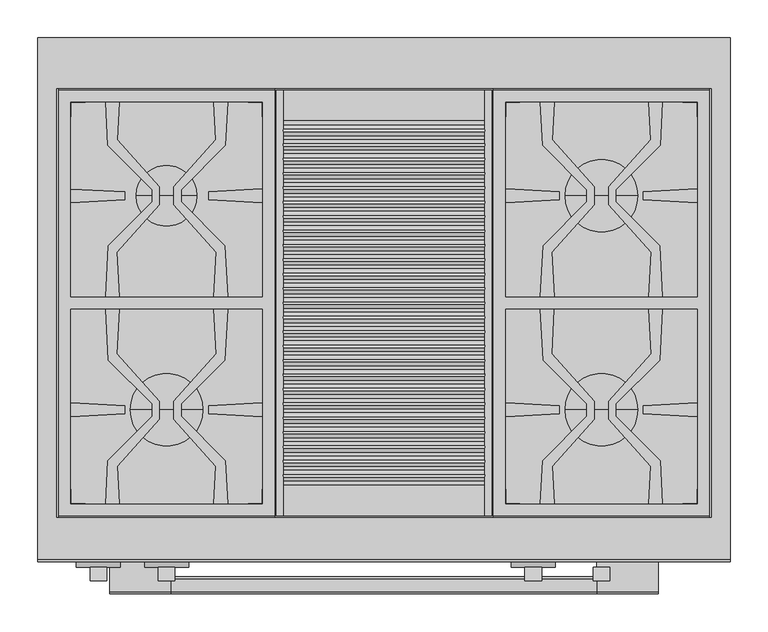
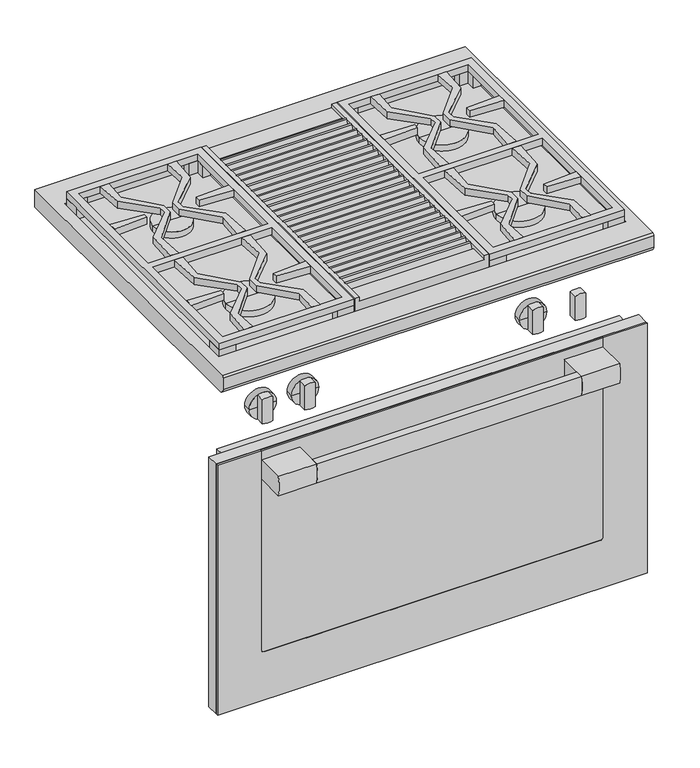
"""IFC4 building model written with IfcOpenShell, lengths in millimetres: proxy geometry, 11791600_USA_HR1935-3G_EDST-CLST : 25193581_USA_11791600_HR1935-3G_EDST-CLST."""

from ifc_helpers import new_model, si_unit, point, frame, frame_2d, origin, place, context, project, spatial, polyline, circle_curve, trimmed, segment, composite_curve, outline, extrude, faceted_brep, source, transform, mapped, element, save
from ifc_brep_helpers import plane_surface, cylinder_surface, revolved_surface, advanced_brep


def specialty_equipment_97d47d35(model_context):
    return source(origin(), model_context, "Body", "SolidModel", [
        extrude(outline(composite_curve([segment(polyline([(-714.0, 624.0), (-731.0, 624.0)]), True, "CONTINUOUS"), segment(trimmed(circle_curve(frame_2d((-655.4583333, 645.5)), 78.5416667), [point((-731.0, 624.0))], [point((-731.0, 667.0))], False, "CARTESIAN"), True, "CONTINUOUS"), segment(polyline([(-731.0, 667.0), (-714.0, 667.0)]), True, "CONTINUOUS"), segment(trimmed(circle_curve(frame_2d((-789.5416667, 645.5)), 78.5416667), [point((-714.0, 667.0))], [point((-714.0, 624.0))], False, "CARTESIAN"), True, "CONTINUOUS")], self_intersect=False)), frame((-281.0, 0.0, 0.0), z_axis=(1.0, 0.0, 0.0), x_axis=(0.0, 1.0, 0.0)), (0.0, 0.0, 1.0), 562.0),
        extrude(outline(composite_curve([segment(polyline([(-731.0, 667.0), (-668.7, 667.0), (-668.7, 624.0), (-731.0, 624.0)]), True, "CONTINUOUS"), segment(trimmed(circle_curve(frame_2d((-655.4583333, 645.5)), 78.5416667), [point((-731.0, 624.0))], [point((-731.0, 667.0))], False, "CARTESIAN"), True, "CONTINUOUS")], self_intersect=False)), frame((281.0, 0.0, 0.0), z_axis=(1.0, 0.0, 0.0), x_axis=(0.0, 1.0, 0.0)), (0.0, 0.0, 1.0), 81.0),
        extrude(outline(composite_curve([segment(polyline([(-668.7, 667.0), (-668.7, 624.0), (-731.0, 624.0)]), True, "CONTINUOUS"), segment(trimmed(circle_curve(frame_2d((-655.4583333, 645.5)), 78.5416667), [point((-731.0, 624.0))], [point((-731.0, 667.0))], False, "CARTESIAN"), True, "CONTINUOUS"), segment(polyline([(-731.0, 667.0), (-668.7, 667.0)]), True, "CONTINUOUS")], self_intersect=False)), frame((-362.0, 0.0, 0.0), z_axis=(1.0, 0.0, 0.0), x_axis=(0.0, 1.0, 0.0)), (0.0, 0.0, 1.0), 81.0),
        extrude(outline(polyline([(-456.0, -638.0), (456.0, -638.0), (456.0, -664.7), (-456.0, -664.7), (-456.0, -638.0)])), frame((0.0, 0.0, 127.0), z_axis=(0.0, 0.0, 1.0), x_axis=(1.0, 0.0, 0.0)), (0.0, 0.0, 1.0), 561.0),
        extrude(outline(polyline([(-455.0, -664.7), (455.0, -664.7), (455.0, -668.7), (-455.0, -668.7), (-455.0, -664.7)])), frame((0.0, 0.0, 128.0), z_axis=(0.0, 0.0, 1.0), x_axis=(1.0, 0.0, 0.0)), (0.0, 0.0, 1.0), 559.0),
        advanced_brep(
        [(363.0, -664.7, 688.0), (456.0, -664.7, 688.0), (456.0, -664.7, 127.0), (-456.0, -664.7, 127.0), (-456.0, -664.7, 688.0), (-363.0, -664.7, 688.0), (-363.0, -664.7, 687.0), (-455.0, -664.7, 687.0), (-455.0, -664.7, 128.0), (455.0, -664.7, 128.0), (455.0, -664.7, 687.0), (363.0, -664.7, 687.0), (-363.0, -670.0, 688.0), (-456.0, -670.0, 688.0), (-456.0, -670.0, 127.0), (456.0, -670.0, 127.0), (456.0, -670.0, 688.0), (363.0, -670.0, 688.0), (363.0, -670.0, 241.0), (357.0, -670.0, 235.0), (-357.0, -670.0, 235.0), (-363.0, -670.0, 241.0), (-363.0, -668.7, 241.0), (-363.0, -668.7, 687.0), (357.0, -668.7, 235.0), (-357.0, -668.7, 235.0), (363.0, -668.7, 687.0), (363.0, -668.7, 241.0), (455.0, -668.7, 687.0), (455.0, -668.7, 128.0), (-455.0, -668.7, 128.0), (-455.0, -668.7, 687.0)],
        [
            (0, 1),
            (1, 2),
            (2, 3),
            (3, 4),
            (4, 5),
            (5, 6),
            (6, 7),
            (7, 8),
            (8, 9),
            (9, 10),
            (10, 11),
            (11, 0),
            (12, 13),
            (13, 14),
            (14, 15),
            (15, 16),
            (16, 17),
            (17, 18),
            (18, 19, circle_curve(frame((357.0, -670.0, 241.0), z_axis=(0.0, 1.0, 0.0), x_axis=(-1.0, 0.0, 0.0)), 6.0)),
            (19, 20),
            (20, 21, circle_curve(frame((-357.0, -670.0, 241.0), z_axis=(0.0, 1.0, 0.0), x_axis=(-1.0, 0.0, 0.0)), 6.0)),
            (21, 12),
            (21, 22),
            (22, 23),
            (23, 6),
            (5, 12),
            (19, 24),
            (24, 25),
            (25, 20),
            (17, 0),
            (11, 26),
            (26, 27),
            (27, 18),
            (16, 1),
            (15, 2),
            (14, 3),
            (13, 4),
            (25, 22, circle_curve(frame((-357.0, -668.7, 241.0), z_axis=(0.0, 1.0, 0.0), x_axis=(-1.0, 0.0, 0.0)), 6.0)),
            (27, 24, circle_curve(frame((357.0, -668.7, 241.0), z_axis=(0.0, 1.0, 0.0), x_axis=(-1.0, 0.0, 0.0)), 6.0)),
            (28, 29),
            (29, 30),
            (30, 31),
            (31, 23),
            (26, 28),
            (28, 10),
            (9, 29),
            (8, 30),
            (7, 31),
        ],
        [
            plane_surface(frame((-363.0, -664.7, 241.0), z_axis=(0.0, 1.0, 0.0), x_axis=(0.0, 0.0, -1.0))),
            plane_surface(frame((-363.0, -670.0, 241.0), z_axis=(0.0, -1.0, 0.0), x_axis=(0.0, 0.0, 1.0))),
            plane_surface(frame((-363.0, -664.7, 688.0), z_axis=(1.0, 0.0, 0.0), x_axis=(0.0, -1.0, 0.0))),
            plane_surface(frame((-357.0, -664.7, 235.0), z_axis=(0.0, 0.0, 1.0), x_axis=(0.0, -1.0, 0.0))),
            plane_surface(frame((363.0, -664.7, 241.0), z_axis=(-1.0, 0.0, 0.0), x_axis=(0.0, -1.0, 0.0))),
            plane_surface(frame((363.0, -664.7, 688.0), z_axis=(0.0, 0.0, 1.0), x_axis=(0.0, -1.0, 0.0))),
            plane_surface(frame((456.0, -664.7, 688.0), z_axis=(1.0, 0.0, 0.0), x_axis=(0.0, -1.0, 0.0))),
            plane_surface(frame((456.0, -664.7, 127.0), z_axis=(0.0, 0.0, -1.0), x_axis=(0.0, -1.0, 0.0))),
            plane_surface(frame((-456.0, -664.7, 127.0), z_axis=(-1.0, 0.0, 0.0), x_axis=(0.0, -1.0, 0.0))),
            plane_surface(frame((-456.0, -664.7, 688.0), z_axis=(0.0, 0.0, 1.0), x_axis=(0.0, -1.0, 0.0))),
            revolved_surface(polyline([(-363.0, -670.0, 241.0), (-363.0, -668.7, 241.0)]), (-357.0, -670.0, 241.0), (0.0, -1.0, 0.0)),
            revolved_surface(polyline([(351.0, -670.0, 241.0), (351.0, -668.7, 241.0)]), (357.0, -670.0, 241.0), (0.0, -1.0, 0.0)),
            plane_surface(frame((455.0, -668.7, 687.0), z_axis=(0.0, 1.0, 0.0), x_axis=(0.0, 0.0, 1.0))),
            plane_surface(frame((455.0, -664.7, 687.0), z_axis=(-1.0, 0.0, 0.0), x_axis=(0.0, -1.0, 0.0))),
            plane_surface(frame((455.0, -664.7, 128.0), z_axis=(0.0, 0.0, 1.0), x_axis=(0.0, -1.0, 0.0))),
            plane_surface(frame((-455.0, -664.7, 128.0), z_axis=(1.0, 0.0, 0.0), x_axis=(0.0, -1.0, 0.0))),
            plane_surface(frame((-455.0, -664.7, 687.0), z_axis=(0.0, 0.0, -1.0), x_axis=(0.0, -1.0, 0.0))),
        ],
        [
            (0, [[1, 2, 3, 4, 5, 6, 7, 8, 9, 10, 11, 12]]),
            (1, [[13, 14, 15, 16, 17, 18, 19, 20, 21, 22]]),
            (2, [[-22, 23, 24, 25, -6, 26]]),
            (3, [[-20, 27, 28, 29]]),
            (4, [[-18, 30, -12, 31, 32, 33]]),
            (5, [[-1, -30, -17, 34]]),
            (6, [[-2, -34, -16, 35]]),
            (7, [[-3, -35, -15, 36]]),
            (8, [[-4, -36, -14, 37]]),
            (9, [[-5, -37, -13, -26]]),
            (10, [[-21, -29, 38, -23]]),
            (11, [[-19, -33, 39, -27]]),
            (12, [[40, 41, 42, 43, -24, -38, -28, -39, -32, 44]]),
            (13, [[-40, 45, -10, 46]]),
            (14, [[-41, -46, -9, 47]]),
            (15, [[-42, -47, -8, 48]]),
            (16, [[-45, -44, -31, -11]]),
            (16, [[-48, -7, -25, -43]]),
        ],
    ),
        extrude(outline(polyline([(-427.0, -617.0), (427.0, -617.0), (427.0, -638.0), (-427.0, -638.0), (-427.0, -617.0)])), frame((0.0, 0.0, 133.0), z_axis=(0.0, 0.0, 1.0), x_axis=(1.0, 0.0, 0.0)), (0.0, 0.0, 1.0), 550.0),
        extrude(outline(polyline([(206.4177304, -358.0273828), (224.4174107, -358.0273828), (221.3474419, -416.9894265), (277.4590566, -479.568392), (277.4590566, -503.4471434), (221.8930533, -565.5024535), (224.5051055, -615.0212482), (206.5054252, -615.0212482), (209.4706458, -558.0710081), (267.8494553, -499.6921986), (267.8494553, -483.3657133), (209.9764383, -425.4926963), (206.4177304, -358.0273828)])), frame((0.0, 0.0, 914.0), z_axis=(0.0, 0.0, 1.0), x_axis=(1.0, 0.0, 0.0)), (0.0, 0.0, 1.0), 15.0),
        extrude(outline(polyline([(352.5666917, -416.9448139), (349.4588735, -358.0273828), (367.4534566, -358.0273828), (363.9434746, -425.4403498), (306.0712231, -483.3126013), (306.0712231, -499.6295194), (364.5438392, -558.1021355), (367.5462487, -615.0212482), (349.541471, -615.0212482), (352.1220648, -565.4581775), (296.4590702, -503.3795395), (296.4590702, -479.6049953), (352.5666917, -416.9448139)])), frame((0.0, 0.0, 914.0), z_axis=(0.0, 0.0, 1.0), x_axis=(1.0, 0.0, 0.0)), (0.0, 0.0, 1.0), 15.0),
        extrude(outline(polyline([(-367.5822696, -358.0273828), (-349.5825893, -358.0273828), (-352.6525581, -416.9894265), (-296.5409434, -479.568392), (-296.5409434, -503.4471434), (-352.1069467, -565.5024535), (-349.4948945, -615.0212482), (-367.4945748, -615.0212482), (-364.5293542, -558.0710081), (-306.1505447, -499.6921986), (-306.1505447, -483.3657133), (-364.0235617, -425.4926963), (-367.5822696, -358.0273828)])), frame((0.0, 0.0, 914.0), z_axis=(0.0, 0.0, 1.0), x_axis=(1.0, 0.0, 0.0)), (0.0, 0.0, 1.0), 15.0),
        extrude(outline(polyline([(-224.5411265, -358.0273828), (-206.5465434, -358.0273828), (-210.0565254, -425.4403498), (-267.9287769, -483.3126013), (-267.9287769, -499.6295194), (-209.4561608, -558.1021355), (-206.4537513, -615.0212482), (-224.458529, -615.0212482), (-221.8779352, -565.4581775), (-277.5409298, -503.3795395), (-277.5409298, -479.6049953), (-221.4333083, -416.9448139), (-224.5411265, -358.0273828)])), frame((0.0, 0.0, 914.0), z_axis=(0.0, 0.0, 1.0), x_axis=(1.0, 0.0, 0.0)), (0.0, 0.0, 1.0), 15.0),
        extrude(outline(polyline([(206.4614138, -85.0), (224.4614138, -85.0), (221.8661974, -134.5196799), (277.5, -196.6082182), (277.5, -220.3917818), (221.3710782, -283.0328838), (224.4614138, -342.0), (206.4614138, -342.0), (209.9971843, -274.5334805), (267.8891082, -216.6415566), (267.8891082, -200.3584434), (209.4441217, -141.9134569), (206.4614138, -85.0)])), frame((0.0, 0.0, 914.0), z_axis=(0.0, 0.0, 1.0), x_axis=(1.0, 0.0, 0.0)), (0.0, 0.0, 1.0), 15.0),
        extrude(outline(polyline([(349.5, -85.0), (367.5, -85.0), (364.5172921, -141.9134569), (306.1108918, -200.3198573), (306.1108918, -216.6801428), (363.9642295, -274.5334805), (367.5, -342.0), (349.5, -342.0), (352.5903356, -283.0328839), (296.5, -220.4348449), (296.5, -196.5651551), (352.0952165, -134.5196799), (349.5, -85.0)])), frame((0.0, 0.0, 914.0), z_axis=(0.0, 0.0, 1.0), x_axis=(1.0, 0.0, 0.0)), (0.0, 0.0, 1.0), 15.0),
        extrude(outline(polyline([(-367.5385862, -85.0), (-349.5385862, -85.0), (-352.1338026, -134.5196799), (-296.5, -196.6082182), (-296.5, -220.3917818), (-352.6289218, -283.0328838), (-349.5385862, -342.0), (-367.5385862, -342.0), (-364.0028157, -274.5334805), (-306.1108918, -216.6415566), (-306.1108918, -200.3584434), (-364.5558783, -141.9134569), (-367.5385862, -85.0)])), frame((0.0, 0.0, 914.0), z_axis=(0.0, 0.0, 1.0), x_axis=(1.0, 0.0, 0.0)), (0.0, 0.0, 1.0), 15.0),
        extrude(outline(polyline([(-224.5, -85.0), (-206.5, -85.0), (-209.4827079, -141.9134569), (-267.8891082, -200.3198573), (-267.8891082, -216.6801428), (-210.0357705, -274.5334805), (-206.5, -342.0), (-224.5, -342.0), (-221.4096644, -283.0328839), (-277.5, -220.4348449), (-277.5, -196.5651551), (-221.9047835, -134.5196799), (-224.5, -85.0)])), frame((0.0, 0.0, 914.0), z_axis=(0.0, 0.0, 1.0), x_axis=(1.0, 0.0, 0.0)), (0.0, 0.0, 1.0), 15.0),
        extrude(outline(polyline([(429.5, -67.0), (429.5, -633.0), (144.5, -633.0), (144.5, -67.0), (429.5, -67.0)])), frame((0.0, 0.0, 870.0), z_axis=(0.0, 0.0, 1.0), x_axis=(1.0, 0.0, 0.0)), (0.0, 0.0, 1.0), 17.0),
        extrude(outline(polyline([(-144.5, -67.0), (-144.5, -633.0), (-429.5, -633.0), (-429.5, -67.0), (-144.5, -67.0)])), frame((0.0, 0.0, 870.0), z_axis=(0.0, 0.0, 1.0), x_axis=(1.0, 0.0, 0.0)), (0.0, 0.0, 1.0), 17.0),
        extrude(outline(polyline([(-342.5, -213.7921261), (-413.5, -217.4578849), (-413.5, -199.5421151), (-342.5, -203.2078739), (-342.5, -213.7921261)])), frame((0.0, 0.0, 914.0), z_axis=(0.0, 0.0, 1.0), x_axis=(1.0, 0.0, 0.0)), (0.0, 0.0, 1.0), 15.0),
        extrude(outline(polyline([(-160.5, -199.5029948), (-160.5, -217.4970052), (-231.5, -213.7790477), (-231.5, -203.2209523), (-160.5, -199.5029948)])), frame((0.0, 0.0, 914.0), z_axis=(0.0, 0.0, 1.0), x_axis=(1.0, 0.0, 0.0)), (0.0, 0.0, 1.0), 15.0),
        extrude(outline(polyline([(-342.5, -496.2921261), (-413.5, -499.9578849), (-413.5, -482.0421151), (-342.5, -485.7078739), (-342.5, -496.2921261)])), frame((0.0, 0.0, 914.0), z_axis=(0.0, 0.0, 1.0), x_axis=(1.0, 0.0, 0.0)), (0.0, 0.0, 1.0), 15.0),
        extrude(outline(polyline([(-160.5, -482.0029948), (-160.5, -499.9970052), (-231.5, -496.2790477), (-231.5, -485.7209523), (-160.5, -482.0029948)])), frame((0.0, 0.0, 914.0), z_axis=(0.0, 0.0, 1.0), x_axis=(1.0, 0.0, 0.0)), (0.0, 0.0, 1.0), 15.0),
        extrude(outline(polyline([(-144.5, -631.0), (-179.5, -631.0), (-179.5, -615.0), (-160.5, -615.0), (-160.5, -596.0), (-144.5, -596.0), (-144.5, -631.0)])), frame((0.0, 0.0, 887.0), z_axis=(0.0, 0.0, 1.0), x_axis=(1.0, 0.0, 0.0)), (0.0, 0.0, 1.0), 27.0),
        extrude(outline(polyline([(-429.5, -631.0), (-429.5, -596.0), (-413.5, -596.0), (-413.5, -615.0), (-394.5, -615.0), (-394.5, -631.0), (-429.5, -631.0)])), frame((0.0, 0.0, 887.0), z_axis=(0.0, 0.0, 1.0), x_axis=(1.0, 0.0, 0.0)), (0.0, 0.0, 1.0), 27.0),
        extrude(outline(polyline([(-144.5, -69.0), (-144.5, -104.0), (-160.5, -104.0), (-160.5, -85.0), (-179.5, -85.0), (-179.5, -69.0), (-144.5, -69.0)])), frame((0.0, 0.0, 887.0), z_axis=(0.0, 0.0, 1.0), x_axis=(1.0, 0.0, 0.0)), (0.0, 0.0, 1.0), 27.0),
        extrude(outline(polyline([(-429.5, -69.0), (-394.5, -69.0), (-394.5, -85.0), (-413.5, -85.0), (-413.5, -104.0), (-429.5, -104.0), (-429.5, -69.0)])), frame((0.0, 0.0, 887.0), z_axis=(0.0, 0.0, 1.0), x_axis=(1.0, 0.0, 0.0)), (0.0, 0.0, 1.0), 27.0),
        extrude(outline(polyline([(160.5, -499.9810574), (160.5, -482.0189426), (231.5, -485.7078739), (231.5, -496.2921261), (160.5, -499.9810574)])), frame((0.0, 0.0, 914.0), z_axis=(0.0, 0.0, 1.0), x_axis=(1.0, 0.0, 0.0)), (0.0, 0.0, 1.0), 15.0),
        extrude(outline(polyline([(413.5, -482.0262039), (413.5, -499.9737961), (342.5, -496.2790477), (342.5, -485.7209523), (413.5, -482.0262039)])), frame((0.0, 0.0, 914.0), z_axis=(0.0, 0.0, 1.0), x_axis=(1.0, 0.0, 0.0)), (0.0, 0.0, 1.0), 15.0),
        extrude(outline(polyline([(160.5, -217.4810574), (160.5, -199.5189426), (231.5, -203.2078739), (231.5, -213.7921261), (160.5, -217.4810574)])), frame((0.0, 0.0, 914.0), z_axis=(0.0, 0.0, 1.0), x_axis=(1.0, 0.0, 0.0)), (0.0, 0.0, 1.0), 15.0),
        extrude(outline(polyline([(413.5, -199.5262039), (413.5, -217.4737961), (342.5, -213.7790477), (342.5, -203.2209523), (413.5, -199.5262039)])), frame((0.0, 0.0, 914.0), z_axis=(0.0, 0.0, 1.0), x_axis=(1.0, 0.0, 0.0)), (0.0, 0.0, 1.0), 15.0),
        advanced_brep(
        [(239.0, -208.5, 887.0), (335.0, -208.5, 887.0), (335.0, -208.5, 901.0), (239.0, -208.5, 901.0), (287.0, -208.5, 887.0), (287.0, -208.5, 901.0)],
        [
            (0, 1, circle_curve(frame((287.0, -208.5, 887.0), z_axis=(0.0, 0.0, 1.0), x_axis=(1.0, 0.0, 0.0)), 48.0)),
            (1, 2),
            (2, 3, circle_curve(frame((287.0, -208.5, 901.0), z_axis=(0.0, 0.0, -1.0), x_axis=(1.0, 0.0, 0.0)), 48.0)),
            (3, 0),
            (1, 0, circle_curve(frame((287.0, -208.5, 887.0), z_axis=(0.0, 0.0, 1.0), x_axis=(1.0, 0.0, 0.0)), 48.0)),
            (3, 2, circle_curve(frame((287.0, -208.5, 901.0), z_axis=(0.0, 0.0, -1.0), x_axis=(1.0, 0.0, 0.0)), 48.0)),
            (4, 1),
            (0, 4),
            (2, 5),
            (5, 3),
        ],
        [
            cylinder_surface(frame((287.0, -208.5, 2424.4), z_axis=(0.0, 0.0, -1.0), x_axis=(1.0, 0.0, 0.0)), 48.0),
            plane_surface(frame((287.0, -208.5, 887.0), z_axis=(0.0, 0.0, -1.0), x_axis=(1.0, 0.0, 0.0))),
            plane_surface(frame((287.0, -208.5, 901.0), z_axis=(0.0, 0.0, 1.0), x_axis=(1.0, 0.0, 0.0))),
        ],
        [
            (0, [[1, 2, 3, 4]]),
            (0, [[5, -4, 6, -2]]),
            (1, [[7, -1, 8]]),
            (1, [[-8, -5, -7]]),
            (2, [[-3, 9, 10]]),
            (2, [[-6, -10, -9]]),
        ],
    ),
        extrude(outline(polyline([(-144.5, -69.0), (-144.5, -631.0), (-429.5, -631.0), (-429.5, -69.0), (-144.5, -69.0)]), holes=[polyline([(-160.5, -85.0), (-413.5, -85.0), (-413.5, -342.0), (-160.5, -342.0), (-160.5, -85.0)]), polyline([(-413.5, -358.0), (-413.5, -615.0), (-160.5, -615.0), (-160.5, -358.0), (-413.5, -358.0)])]), frame((0.0, 0.0, 914.0), z_axis=(0.0, 0.0, 1.0), x_axis=(1.0, 0.0, 0.0)), (0.0, 0.0, 1.0), 15.0),
        extrude(outline(polyline([(429.5, -69.0), (429.5, -631.0), (144.5, -631.0), (144.5, -69.0), (429.5, -69.0)]), holes=[polyline([(413.5, -85.0), (160.5, -85.0), (160.5, -342.0), (413.5, -342.0), (413.5, -85.0)]), polyline([(160.5, -358.0), (160.5, -615.0), (413.5, -615.0), (413.5, -358.0), (160.5, -358.0)])]), frame((0.0, 0.0, 914.0), z_axis=(0.0, 0.0, 1.0), x_axis=(1.0, 0.0, 0.0)), (0.0, 0.0, 1.0), 15.0),
        advanced_brep(
        [(239.0, -491.0, 887.0), (335.0, -491.0, 887.0), (335.0, -491.0, 901.0), (239.0, -491.0, 901.0), (287.0, -491.0, 887.0), (287.0, -491.0, 901.0)],
        [
            (0, 1, circle_curve(frame((287.0, -491.0, 887.0), z_axis=(0.0, 0.0, 1.0), x_axis=(1.0, 0.0, 0.0)), 48.0)),
            (1, 2),
            (2, 3, circle_curve(frame((287.0, -491.0, 901.0), z_axis=(0.0, 0.0, -1.0), x_axis=(1.0, 0.0, 0.0)), 48.0)),
            (3, 0),
            (1, 0, circle_curve(frame((287.0, -491.0, 887.0), z_axis=(0.0, 0.0, 1.0), x_axis=(1.0, 0.0, 0.0)), 48.0)),
            (3, 2, circle_curve(frame((287.0, -491.0, 901.0), z_axis=(0.0, 0.0, -1.0), x_axis=(1.0, 0.0, 0.0)), 48.0)),
            (4, 1),
            (0, 4),
            (2, 5),
            (5, 3),
        ],
        [
            cylinder_surface(frame((287.0, -491.0, 2424.4), z_axis=(0.0, 0.0, -1.0), x_axis=(1.0, 0.0, 0.0)), 48.0),
            plane_surface(frame((287.0, -491.0, 887.0), z_axis=(0.0, 0.0, -1.0), x_axis=(1.0, 0.0, 0.0))),
            plane_surface(frame((287.0, -491.0, 901.0), z_axis=(0.0, 0.0, 1.0), x_axis=(1.0, 0.0, 0.0))),
        ],
        [
            (0, [[1, 2, 3, 4]]),
            (0, [[5, -4, 6, -2]]),
            (1, [[7, -1, 8]]),
            (1, [[-8, -5, -7]]),
            (2, [[-3, 9, 10]]),
            (2, [[-6, -10, -9]]),
        ],
    ),
        extrude(outline(polyline([(429.5, -631.0), (394.5, -631.0), (394.5, -615.0), (413.5, -615.0), (413.5, -596.0), (429.5, -596.0), (429.5, -631.0)])), frame((0.0, 0.0, 887.0), z_axis=(0.0, 0.0, 1.0), x_axis=(1.0, 0.0, 0.0)), (0.0, 0.0, 1.0), 27.0),
        extrude(outline(polyline([(144.5, -631.0), (144.5, -596.0), (160.5125078, -596.0), (160.5125078, -615.0), (179.5, -615.0), (179.5, -631.0), (144.5, -631.0)])), frame((0.0, 0.0, 887.0), z_axis=(0.0, 0.0, 1.0), x_axis=(1.0, 0.0, 0.0)), (0.0, 0.0, 1.0), 27.0),
        extrude(outline(polyline([(429.5, -69.0), (429.5, -104.0), (413.4874922, -104.0), (413.4874922, -85.0), (394.5, -85.0), (394.5, -69.0), (429.5, -69.0)])), frame((0.0, 0.0, 887.0), z_axis=(0.0, 0.0, 1.0), x_axis=(1.0, 0.0, 0.0)), (0.0, 0.0, 1.0), 27.0),
        extrude(outline(polyline([(144.5, -69.0), (179.5, -69.0), (179.5, -85.0), (160.5125078, -85.0), (160.5125078, -104.0), (144.5, -104.0), (144.5, -69.0)])), frame((0.0, 0.0, 887.0), z_axis=(0.0, 0.0, 1.0), x_axis=(1.0, 0.0, 0.0)), (0.0, 0.0, 1.0), 27.0),
        advanced_brep(
        [(-287.0, -208.5, 887.0), (-247.0, -208.5, 887.0), (-327.0, -208.5, 887.0), (-327.0, -208.5, 901.0), (-247.0, -208.5, 901.0), (-287.0, -208.5, 901.0)],
        [
            (0, 1),
            (1, 2, circle_curve(frame((-287.0, -208.5, 887.0), z_axis=(0.0, 0.0, -1.0), x_axis=(1.0, 0.0, 0.0)), 40.0)),
            (2, 0),
            (2, 1, circle_curve(frame((-287.0, -208.5, 887.0), z_axis=(0.0, 0.0, -1.0), x_axis=(1.0, 0.0, 0.0)), 40.0)),
            (3, 4, circle_curve(frame((-287.0, -208.5, 901.0), z_axis=(0.0, 0.0, 1.0), x_axis=(1.0, 0.0, 0.0)), 40.0)),
            (4, 5),
            (5, 3),
            (4, 3, circle_curve(frame((-287.0, -208.5, 901.0), z_axis=(0.0, 0.0, 1.0), x_axis=(1.0, 0.0, 0.0)), 40.0)),
            (1, 4),
            (3, 2),
        ],
        [
            plane_surface(frame((-287.0, -208.5, 887.0), z_axis=(0.0, 0.0, -1.0), x_axis=(1.0, 0.0, 0.0))),
            plane_surface(frame((-287.0, -208.5, 901.0), z_axis=(0.0, 0.0, 1.0), x_axis=(1.0, 0.0, 0.0))),
            cylinder_surface(frame((-287.0, -208.5, 2424.4), z_axis=(0.0, 0.0, -1.0), x_axis=(1.0, 0.0, 0.0)), 40.0),
        ],
        [
            (0, [[1, 2, 3]]),
            (0, [[-3, 4, -1]]),
            (1, [[5, 6, 7]]),
            (1, [[8, -7, -6]]),
            (2, [[-2, 9, -5, 10]]),
            (2, [[-4, -10, -8, -9]]),
        ],
    ),
        advanced_brep(
        [(-335.0, -491.0, 887.0), (-239.0, -491.0, 887.0), (-239.0, -491.0, 901.0), (-335.0, -491.0, 901.0), (-287.0, -491.0, 887.0), (-287.0, -491.0, 901.0)],
        [
            (0, 1, circle_curve(frame((-287.0, -491.0, 887.0), z_axis=(0.0, 0.0, 1.0), x_axis=(1.0, 0.0, 0.0)), 48.0)),
            (1, 2),
            (2, 3, circle_curve(frame((-287.0, -491.0, 901.0), z_axis=(0.0, 0.0, -1.0), x_axis=(1.0, 0.0, 0.0)), 48.0)),
            (3, 0),
            (1, 0, circle_curve(frame((-287.0, -491.0, 887.0), z_axis=(0.0, 0.0, 1.0), x_axis=(1.0, 0.0, 0.0)), 48.0)),
            (3, 2, circle_curve(frame((-287.0, -491.0, 901.0), z_axis=(0.0, 0.0, -1.0), x_axis=(1.0, 0.0, 0.0)), 48.0)),
            (4, 1),
            (0, 4),
            (2, 5),
            (5, 3),
        ],
        [
            cylinder_surface(frame((-287.0, -491.0, 2424.4), z_axis=(0.0, 0.0, -1.0), x_axis=(1.0, 0.0, 0.0)), 48.0),
            plane_surface(frame((-287.0, -491.0, 887.0), z_axis=(0.0, 0.0, -1.0), x_axis=(1.0, 0.0, 0.0))),
            plane_surface(frame((-287.0, -491.0, 901.0), z_axis=(0.0, 0.0, 1.0), x_axis=(1.0, 0.0, 0.0))),
        ],
        [
            (0, [[1, 2, 3, 4]]),
            (0, [[5, -4, 6, -2]]),
            (1, [[7, -1, 8]]),
            (1, [[-8, -5, -7]]),
            (2, [[-3, 9, 10]]),
            (2, [[-6, -10, -9]]),
        ],
    ),
        advanced_brep(
        [(457.0, 0.0, 902.0), (457.0, -688.3499547, 902.0), (457.0, -692.0, 898.3499547), (457.0, -692.0, 872.0), (457.0, -682.0, 862.0), (457.0, 0.0, 862.0), (-457.0, 0.0, 902.0), (-457.0, 0.0, 862.0), (-457.0, -682.0, 862.0), (-457.0, -692.0, 872.0), (-457.0, -692.0, 898.3499547), (-457.0, -688.3499547, 902.0), (-432.0, -67.0, 902.0), (432.0, -67.0, 902.0), (432.0, -633.0, 902.0), (-432.0, -633.0, 902.0), (432.0, -67.0, 870.0), (-432.0, -67.0, 870.0), (-432.0, -633.0, 870.0), (432.0, -633.0, 870.0)],
        [
            (0, 1),
            (1, 2, circle_curve(frame((457.0, -688.0, 898.0), z_axis=(1.0, 0.0, 0.0), x_axis=(0.0, 0.0, 1.0)), 4.0152794)),
            (2, 3),
            (3, 4, circle_curve(frame((457.0, -682.0, 872.0), z_axis=(1.0, 0.0, 0.0), x_axis=(0.0, 0.0, 1.0)), 10.0)),
            (4, 5),
            (5, 0),
            (6, 7),
            (7, 8),
            (8, 9, circle_curve(frame((-457.0, -682.0, 872.0), z_axis=(-1.0, 0.0, 0.0), x_axis=(0.0, 0.0, 1.0)), 10.0)),
            (9, 10),
            (10, 11, circle_curve(frame((-457.0, -688.0, 898.0), z_axis=(-1.0, 0.0, 0.0), x_axis=(0.0, 0.0, 1.0)), 4.0152794)),
            (11, 6),
            (0, 6),
            (11, 1),
            (12, 13),
            (13, 14),
            (14, 15),
            (15, 12),
            (10, 2),
            (9, 3),
            (8, 4),
            (7, 5),
            (16, 17),
            (17, 18),
            (18, 19),
            (19, 16),
            (16, 13),
            (12, 17),
            (15, 18),
            (14, 19),
        ],
        [
            plane_surface(frame((457.0, -688.3499547, 902.0), z_axis=(1.0, 0.0, 0.0), x_axis=(0.0, -1.0, 0.0))),
            plane_surface(frame((-457.0, -688.3499547, 902.0), z_axis=(-1.0, 0.0, 0.0), x_axis=(0.0, 1.0, 0.0))),
            plane_surface(frame((457.0, 0.0, 902.0), z_axis=(0.0, 0.0, 1.0), x_axis=(-1.0, 0.0, 0.0))),
            cylinder_surface(frame((-457.0, -688.0, 898.0), z_axis=(1.0, 0.0, 0.0), x_axis=(0.0, 0.0, 1.0)), 4.0152794),
            plane_surface(frame((457.0, -692.0, 898.3499547), z_axis=(0.0, -1.0, 0.0), x_axis=(-1.0, 0.0, 0.0))),
            cylinder_surface(frame((-457.0, -682.0, 872.0), z_axis=(1.0, 0.0, 0.0), x_axis=(0.0, 0.0, 1.0)), 10.0),
            plane_surface(frame((457.0, -682.0, 862.0), z_axis=(0.0, 0.0, -1.0), x_axis=(-1.0, 0.0, 0.0))),
            plane_surface(frame((457.0, 0.0, 862.0), z_axis=(0.0, 1.0, 0.0), x_axis=(-1.0, 0.0, 0.0))),
            plane_surface(frame((-432.0, -67.0, 870.0), z_axis=(0.0, 0.0, 1.0), x_axis=(1.0, 0.0, 0.0))),
            plane_surface(frame((432.0, -67.0, 902.0), z_axis=(0.0, -1.0, 0.0), x_axis=(0.0, 0.0, -1.0))),
            plane_surface(frame((-432.0, -67.0, 902.0), z_axis=(1.0, 0.0, 0.0), x_axis=(0.0, 0.0, -1.0))),
            plane_surface(frame((-432.0, -633.0, 902.0), z_axis=(0.0, 1.0, 0.0), x_axis=(0.0, 0.0, -1.0))),
            plane_surface(frame((432.0, -633.0, 902.0), z_axis=(-1.0, 0.0, 0.0), x_axis=(0.0, 0.0, -1.0))),
        ],
        [
            (0, [[1, 2, 3, 4, 5, 6]]),
            (1, [[7, 8, 9, 10, 11, 12]]),
            (2, [[-1, 13, -12, 14], [15, 16, 17, 18]]),
            (3, [[-2, -14, -11, 19]]),
            (4, [[-3, -19, -10, 20]]),
            (5, [[-4, -20, -9, 21]]),
            (6, [[-5, -21, -8, 22]]),
            (7, [[-6, -22, -7, -13]]),
            (8, [[23, 24, 25, 26]]),
            (9, [[-23, 27, -15, 28]]),
            (10, [[-24, -28, -18, 29]]),
            (11, [[-25, -29, -17, 30]]),
            (12, [[-26, -30, -16, -27]]),
        ],
    ),
        extrude(outline(composite_curve([segment(polyline([(-584.850382, 916.0), (-579.8405353, 927.7825791)]), True, "CONTINUOUS"), segment(trimmed(circle_curve(frame_2d((-578.0, 927.0)), 2.0), [point((-579.8405353, 927.7825791))], [point((-576.1594647, 927.7825791))], False, "CARTESIAN"), True, "CONTINUOUS"), segment(polyline([(-576.1594647, 927.7825791), (-571.149618, 916.0), (-584.850382, 916.0)]), True, "CONTINUOUS")], self_intersect=False)), frame((-133.0, 0.0, 0.0), z_axis=(1.0, 0.0, 0.0), x_axis=(0.0, 1.0, 0.0)), (0.0, 0.0, 1.0), 266.0),
        extrude(outline(composite_curve([segment(polyline([(-565.850382, 916.0), (-560.8405353, 927.7825791)]), True, "CONTINUOUS"), segment(trimmed(circle_curve(frame_2d((-559.0, 927.0)), 2.0), [point((-560.8405353, 927.7825791))], [point((-557.1594647, 927.7825791))], False, "CARTESIAN"), True, "CONTINUOUS"), segment(polyline([(-557.1594647, 927.7825791), (-552.149618, 916.0), (-565.850382, 916.0)]), True, "CONTINUOUS")], self_intersect=False)), frame((-133.0, 0.0, 0.0), z_axis=(1.0, 0.0, 0.0), x_axis=(0.0, 1.0, 0.0)), (0.0, 0.0, 1.0), 266.0),
        extrude(outline(composite_curve([segment(polyline([(-546.850382, 916.0), (-541.8405353, 927.7825791)]), True, "CONTINUOUS"), segment(trimmed(circle_curve(frame_2d((-540.0, 927.0)), 2.0), [point((-541.8405353, 927.7825791))], [point((-538.1594647, 927.7825791))], False, "CARTESIAN"), True, "CONTINUOUS"), segment(polyline([(-538.1594647, 927.7825791), (-533.149618, 916.0), (-546.850382, 916.0)]), True, "CONTINUOUS")], self_intersect=False)), frame((-133.0, 0.0, 0.0), z_axis=(1.0, 0.0, 0.0), x_axis=(0.0, 1.0, 0.0)), (0.0, 0.0, 1.0), 266.0),
        extrude(outline(composite_curve([segment(polyline([(-527.850382, 916.0), (-522.8405353, 927.7825791)]), True, "CONTINUOUS"), segment(trimmed(circle_curve(frame_2d((-521.0, 927.0)), 2.0), [point((-522.8405353, 927.7825791))], [point((-519.1594647, 927.7825791))], False, "CARTESIAN"), True, "CONTINUOUS"), segment(polyline([(-519.1594647, 927.7825791), (-514.149618, 916.0), (-527.850382, 916.0)]), True, "CONTINUOUS")], self_intersect=False)), frame((-133.0, 0.0, 0.0), z_axis=(1.0, 0.0, 0.0), x_axis=(0.0, 1.0, 0.0)), (0.0, 0.0, 1.0), 266.0),
        extrude(outline(composite_curve([segment(polyline([(-508.850382, 916.0), (-503.8405353, 927.7825791)]), True, "CONTINUOUS"), segment(trimmed(circle_curve(frame_2d((-502.0, 927.0)), 2.0), [point((-503.8405353, 927.7825791))], [point((-500.1594647, 927.7825791))], False, "CARTESIAN"), True, "CONTINUOUS"), segment(polyline([(-500.1594647, 927.7825791), (-495.149618, 916.0), (-508.850382, 916.0)]), True, "CONTINUOUS")], self_intersect=False)), frame((-133.0, 0.0, 0.0), z_axis=(1.0, 0.0, 0.0), x_axis=(0.0, 1.0, 0.0)), (0.0, 0.0, 1.0), 266.0),
        extrude(outline(composite_curve([segment(polyline([(-489.850382, 916.0), (-484.8405353, 927.7825791)]), True, "CONTINUOUS"), segment(trimmed(circle_curve(frame_2d((-483.0, 927.0)), 2.0), [point((-484.8405353, 927.7825791))], [point((-481.1594647, 927.7825791))], False, "CARTESIAN"), True, "CONTINUOUS"), segment(polyline([(-481.1594647, 927.7825791), (-476.149618, 916.0), (-489.850382, 916.0)]), True, "CONTINUOUS")], self_intersect=False)), frame((-133.0, 0.0, 0.0), z_axis=(1.0, 0.0, 0.0), x_axis=(0.0, 1.0, 0.0)), (0.0, 0.0, 1.0), 266.0),
        extrude(outline(composite_curve([segment(polyline([(-470.850382, 916.0), (-465.8405353, 927.7825791)]), True, "CONTINUOUS"), segment(trimmed(circle_curve(frame_2d((-464.0, 927.0)), 2.0), [point((-465.8405353, 927.7825791))], [point((-462.1594647, 927.7825791))], False, "CARTESIAN"), True, "CONTINUOUS"), segment(polyline([(-462.1594647, 927.7825791), (-457.149618, 916.0), (-470.850382, 916.0)]), True, "CONTINUOUS")], self_intersect=False)), frame((-133.0, 0.0, 0.0), z_axis=(1.0, 0.0, 0.0), x_axis=(0.0, 1.0, 0.0)), (0.0, 0.0, 1.0), 266.0),
        extrude(outline(composite_curve([segment(polyline([(-451.850382, 916.0), (-446.8405353, 927.7825791)]), True, "CONTINUOUS"), segment(trimmed(circle_curve(frame_2d((-445.0, 927.0)), 2.0), [point((-446.8405353, 927.7825791))], [point((-443.1594647, 927.7825791))], False, "CARTESIAN"), True, "CONTINUOUS"), segment(polyline([(-443.1594647, 927.7825791), (-438.149618, 916.0), (-451.850382, 916.0)]), True, "CONTINUOUS")], self_intersect=False)), frame((-133.0, 0.0, 0.0), z_axis=(1.0, 0.0, 0.0), x_axis=(0.0, 1.0, 0.0)), (0.0, 0.0, 1.0), 266.0),
        extrude(outline(composite_curve([segment(polyline([(-432.850382, 916.0), (-427.8405353, 927.7825791)]), True, "CONTINUOUS"), segment(trimmed(circle_curve(frame_2d((-426.0, 927.0)), 2.0), [point((-427.8405353, 927.7825791))], [point((-424.1594647, 927.7825791))], False, "CARTESIAN"), True, "CONTINUOUS"), segment(polyline([(-424.1594647, 927.7825791), (-419.149618, 916.0), (-432.850382, 916.0)]), True, "CONTINUOUS")], self_intersect=False)), frame((-133.0, 0.0, 0.0), z_axis=(1.0, 0.0, 0.0), x_axis=(0.0, 1.0, 0.0)), (0.0, 0.0, 1.0), 266.0),
        extrude(outline(composite_curve([segment(polyline([(-413.850382, 916.0), (-408.8405353, 927.7825791)]), True, "CONTINUOUS"), segment(trimmed(circle_curve(frame_2d((-407.0, 927.0)), 2.0), [point((-408.8405353, 927.7825791))], [point((-405.1594647, 927.7825791))], False, "CARTESIAN"), True, "CONTINUOUS"), segment(polyline([(-405.1594647, 927.7825791), (-400.149618, 916.0), (-413.850382, 916.0)]), True, "CONTINUOUS")], self_intersect=False)), frame((-133.0, 0.0, 0.0), z_axis=(1.0, 0.0, 0.0), x_axis=(0.0, 1.0, 0.0)), (0.0, 0.0, 1.0), 266.0),
        extrude(outline(composite_curve([segment(polyline([(-394.850382, 916.0), (-389.8405353, 927.7825791)]), True, "CONTINUOUS"), segment(trimmed(circle_curve(frame_2d((-388.0, 927.0)), 2.0), [point((-389.8405353, 927.7825791))], [point((-386.1594647, 927.7825791))], False, "CARTESIAN"), True, "CONTINUOUS"), segment(polyline([(-386.1594647, 927.7825791), (-381.149618, 916.0), (-394.850382, 916.0)]), True, "CONTINUOUS")], self_intersect=False)), frame((-133.0, 0.0, 0.0), z_axis=(1.0, 0.0, 0.0), x_axis=(0.0, 1.0, 0.0)), (0.0, 0.0, 1.0), 266.0),
        extrude(outline(composite_curve([segment(polyline([(-375.850382, 916.0), (-370.8405353, 927.7825791)]), True, "CONTINUOUS"), segment(trimmed(circle_curve(frame_2d((-369.0, 927.0)), 2.0), [point((-370.8405353, 927.7825791))], [point((-367.1594647, 927.7825791))], False, "CARTESIAN"), True, "CONTINUOUS"), segment(polyline([(-367.1594647, 927.7825791), (-362.149618, 916.0), (-375.850382, 916.0)]), True, "CONTINUOUS")], self_intersect=False)), frame((-133.0, 0.0, 0.0), z_axis=(1.0, 0.0, 0.0), x_axis=(0.0, 1.0, 0.0)), (0.0, 0.0, 1.0), 266.0),
        extrude(outline(composite_curve([segment(polyline([(-356.850382, 916.0), (-351.8405353, 927.7825791)]), True, "CONTINUOUS"), segment(trimmed(circle_curve(frame_2d((-350.0, 927.0)), 2.0), [point((-351.8405353, 927.7825791))], [point((-348.1594647, 927.7825791))], False, "CARTESIAN"), True, "CONTINUOUS"), segment(polyline([(-348.1594647, 927.7825791), (-343.149618, 916.0), (-356.850382, 916.0)]), True, "CONTINUOUS")], self_intersect=False)), frame((-133.0, 0.0, 0.0), z_axis=(1.0, 0.0, 0.0), x_axis=(0.0, 1.0, 0.0)), (0.0, 0.0, 1.0), 266.0),
        extrude(outline(composite_curve([segment(polyline([(-337.850382, 916.0), (-332.8405353, 927.7825791)]), True, "CONTINUOUS"), segment(trimmed(circle_curve(frame_2d((-331.0, 927.0)), 2.0), [point((-332.8405353, 927.7825791))], [point((-329.1594647, 927.7825791))], False, "CARTESIAN"), True, "CONTINUOUS"), segment(polyline([(-329.1594647, 927.7825791), (-324.149618, 916.0), (-337.850382, 916.0)]), True, "CONTINUOUS")], self_intersect=False)), frame((-133.0, 0.0, 0.0), z_axis=(1.0, 0.0, 0.0), x_axis=(0.0, 1.0, 0.0)), (0.0, 0.0, 1.0), 266.0),
        extrude(outline(composite_curve([segment(polyline([(-318.850382, 916.0), (-313.8405353, 927.7825791)]), True, "CONTINUOUS"), segment(trimmed(circle_curve(frame_2d((-312.0, 927.0)), 2.0), [point((-313.8405353, 927.7825791))], [point((-310.1594647, 927.7825791))], False, "CARTESIAN"), True, "CONTINUOUS"), segment(polyline([(-310.1594647, 927.7825791), (-305.149618, 916.0), (-318.850382, 916.0)]), True, "CONTINUOUS")], self_intersect=False)), frame((-133.0, 0.0, 0.0), z_axis=(1.0, 0.0, 0.0), x_axis=(0.0, 1.0, 0.0)), (0.0, 0.0, 1.0), 266.0),
        extrude(outline(composite_curve([segment(polyline([(-299.850382, 916.0), (-294.8405353, 927.7825791)]), True, "CONTINUOUS"), segment(trimmed(circle_curve(frame_2d((-293.0, 927.0)), 2.0), [point((-294.8405353, 927.7825791))], [point((-291.1594647, 927.7825791))], False, "CARTESIAN"), True, "CONTINUOUS"), segment(polyline([(-291.1594647, 927.7825791), (-286.149618, 916.0), (-299.850382, 916.0)]), True, "CONTINUOUS")], self_intersect=False)), frame((-133.0, 0.0, 0.0), z_axis=(1.0, 0.0, 0.0), x_axis=(0.0, 1.0, 0.0)), (0.0, 0.0, 1.0), 266.0),
        extrude(outline(composite_curve([segment(polyline([(-280.850382, 916.0), (-275.8405353, 927.7825791)]), True, "CONTINUOUS"), segment(trimmed(circle_curve(frame_2d((-274.0, 927.0)), 2.0), [point((-275.8405353, 927.7825791))], [point((-272.1594647, 927.7825791))], False, "CARTESIAN"), True, "CONTINUOUS"), segment(polyline([(-272.1594647, 927.7825791), (-267.149618, 916.0), (-280.850382, 916.0)]), True, "CONTINUOUS")], self_intersect=False)), frame((-133.0, 0.0, 0.0), z_axis=(1.0, 0.0, 0.0), x_axis=(0.0, 1.0, 0.0)), (0.0, 0.0, 1.0), 266.0),
        extrude(outline(composite_curve([segment(polyline([(-261.850382, 916.0), (-256.8405353, 927.7825791)]), True, "CONTINUOUS"), segment(trimmed(circle_curve(frame_2d((-255.0, 927.0)), 2.0), [point((-256.8405353, 927.7825791))], [point((-253.1594647, 927.7825791))], False, "CARTESIAN"), True, "CONTINUOUS"), segment(polyline([(-253.1594647, 927.7825791), (-248.149618, 916.0), (-261.850382, 916.0)]), True, "CONTINUOUS")], self_intersect=False)), frame((-133.0, 0.0, 0.0), z_axis=(1.0, 0.0, 0.0), x_axis=(0.0, 1.0, 0.0)), (0.0, 0.0, 1.0), 266.0),
        extrude(outline(composite_curve([segment(polyline([(-242.850382, 916.0), (-237.8405353, 927.7825791)]), True, "CONTINUOUS"), segment(trimmed(circle_curve(frame_2d((-236.0, 927.0)), 2.0), [point((-237.8405353, 927.7825791))], [point((-234.1594647, 927.7825791))], False, "CARTESIAN"), True, "CONTINUOUS"), segment(polyline([(-234.1594647, 927.7825791), (-229.149618, 916.0), (-242.850382, 916.0)]), True, "CONTINUOUS")], self_intersect=False)), frame((-133.0, 0.0, 0.0), z_axis=(1.0, 0.0, 0.0), x_axis=(0.0, 1.0, 0.0)), (0.0, 0.0, 1.0), 266.0),
        extrude(outline(composite_curve([segment(polyline([(-223.850382, 916.0), (-218.8405353, 927.7825791)]), True, "CONTINUOUS"), segment(trimmed(circle_curve(frame_2d((-217.0, 927.0)), 2.0), [point((-218.8405353, 927.7825791))], [point((-215.1594647, 927.7825791))], False, "CARTESIAN"), True, "CONTINUOUS"), segment(polyline([(-215.1594647, 927.7825791), (-210.149618, 916.0), (-223.850382, 916.0)]), True, "CONTINUOUS")], self_intersect=False)), frame((-133.0, 0.0, 0.0), z_axis=(1.0, 0.0, 0.0), x_axis=(0.0, 1.0, 0.0)), (0.0, 0.0, 1.0), 266.0),
        extrude(outline(composite_curve([segment(polyline([(-204.850382, 916.0), (-199.8405353, 927.7825791)]), True, "CONTINUOUS"), segment(trimmed(circle_curve(frame_2d((-198.0, 927.0)), 2.0), [point((-199.8405353, 927.7825791))], [point((-196.1594647, 927.7825791))], False, "CARTESIAN"), True, "CONTINUOUS"), segment(polyline([(-196.1594647, 927.7825791), (-191.149618, 916.0), (-204.850382, 916.0)]), True, "CONTINUOUS")], self_intersect=False)), frame((-133.0, 0.0, 0.0), z_axis=(1.0, 0.0, 0.0), x_axis=(0.0, 1.0, 0.0)), (0.0, 0.0, 1.0), 266.0),
        extrude(outline(composite_curve([segment(polyline([(-186.0094205, 916.0), (-180.9995737, 927.7825791)]), True, "CONTINUOUS"), segment(trimmed(circle_curve(frame_2d((-179.1590385, 927.0)), 2.0), [point((-180.9995737, 927.7825791))], [point((-177.3185032, 927.7825791))], False, "CARTESIAN"), True, "CONTINUOUS"), segment(polyline([(-177.3185032, 927.7825791), (-172.3086564, 916.0), (-186.0094205, 916.0)]), True, "CONTINUOUS")], self_intersect=False)), frame((-133.0, 0.0, 0.0), z_axis=(1.0, 0.0, 0.0), x_axis=(0.0, 1.0, 0.0)), (0.0, 0.0, 1.0), 266.0),
        extrude(outline(composite_curve([segment(polyline([(-167.0094205, 916.0), (-161.9995737, 927.7825791)]), True, "CONTINUOUS"), segment(trimmed(circle_curve(frame_2d((-160.1590385, 927.0)), 2.0), [point((-161.9995737, 927.7825791))], [point((-158.3185032, 927.7825791))], False, "CARTESIAN"), True, "CONTINUOUS"), segment(polyline([(-158.3185032, 927.7825791), (-153.3086564, 916.0), (-167.0094205, 916.0)]), True, "CONTINUOUS")], self_intersect=False)), frame((-133.0, 0.0, 0.0), z_axis=(1.0, 0.0, 0.0), x_axis=(0.0, 1.0, 0.0)), (0.0, 0.0, 1.0), 266.0),
        extrude(outline(composite_curve([segment(polyline([(-147.9510319, 916.0), (-142.9411852, 927.7825791)]), True, "CONTINUOUS"), segment(trimmed(circle_curve(frame_2d((-141.1006499, 927.0)), 2.0), [point((-142.9411852, 927.7825791))], [point((-139.2601147, 927.7825791))], False, "CARTESIAN"), True, "CONTINUOUS"), segment(polyline([(-139.2601147, 927.7825791), (-134.2502679, 916.0), (-147.9510319, 916.0)]), True, "CONTINUOUS")], self_intersect=False)), frame((-133.0, 0.0, 0.0), z_axis=(1.0, 0.0, 0.0), x_axis=(0.0, 1.0, 0.0)), (0.0, 0.0, 1.0), 266.0),
        extrude(outline(composite_curve([segment(polyline([(-128.9510319, 916.0), (-123.9411852, 927.7825791)]), True, "CONTINUOUS"), segment(trimmed(circle_curve(frame_2d((-122.1006499, 927.0)), 2.0), [point((-123.9411852, 927.7825791))], [point((-120.2601147, 927.7825791))], False, "CARTESIAN"), True, "CONTINUOUS"), segment(polyline([(-120.2601147, 927.7825791), (-115.2502679, 916.0), (-128.9510319, 916.0)]), True, "CONTINUOUS")], self_intersect=False)), frame((-133.0, 0.0, 0.0), z_axis=(1.0, 0.0, 0.0), x_axis=(0.0, 1.0, 0.0)), (0.0, 0.0, 1.0), 266.0),
        faceted_brep([(-142.5, -69.0, 929.0), (-142.5, -631.0, 929.0), (-133.0, -631.0, 929.0), (-133.0, -69.0, 929.0), (142.5, -631.0, 929.0), (142.5, -69.0, 929.0), (133.0, -69.0, 929.0), (133.0, -631.0, 929.0), (142.5, -69.0, 891.0), (142.5, -631.0, 891.0), (-142.5, -631.0, 891.0), (-142.5, -69.0, 891.0), (133.0, -356.6944574, 891.0), (133.0, -109.0, 891.0), (-133.0, -109.0, 891.0), (-133.0, -356.6944574, 891.0), (-133.0, -591.0, 891.0), (133.0, -591.0, 891.0), (-133.0, -69.0, 921.0), (133.0, -69.0, 921.0), (133.0, -631.0, 921.0), (-133.0, -631.0, 921.0), (133.0, -591.0, 921.0), (133.0, -109.0, 921.0), (-133.0, -591.0, 921.0), (-133.0, -109.0, 921.0)], [[[0, 1, 2, 3]], [[4, 5, 6, 7]], [[8, 9, 10, 11], [12, 13, 14, 15, 16, 17]], [[8, 11, 0, 3, 18, 19, 6, 5]], [[1, 0, 11, 10]], [[10, 9, 4, 7, 20, 21, 2, 1]], [[5, 4, 9, 8]], [[22, 20, 7, 6, 19, 23, 13, 12, 17]], [[24, 16, 15, 14, 25, 18, 3, 2, 21]], [[22, 17, 16, 24]], [[13, 23, 25, 14]], [[23, 19, 18, 25]], [[20, 22, 24, 21]]]),
        extrude(outline(composite_curve([segment(polyline([(839.8328157, -388.0), (786.1671843, -388.0)]), True, "CONTINUOUS"), segment(trimmed(circle_curve(frame_2d((813.0, -377.0)), 29.0), [point((786.1671843, -388.0))], [point((786.1671843, -366.0))], False, "CARTESIAN"), True, "CONTINUOUS"), segment(polyline([(786.1671843, -366.0), (839.8328157, -366.0)]), True, "CONTINUOUS"), segment(trimmed(circle_curve(frame_2d((813.0, -377.0)), 29.0), [point((839.8328157, -366.0))], [point((839.8328157, -388.0))], False, "CARTESIAN"), True, "CONTINUOUS")], self_intersect=False)), frame((0.0, -717.0, 0.0), z_axis=(0.0, 1.0, 0.0), x_axis=(0.0, 0.0, 1.0)), (0.0, 0.0, 1.0), 18.0),
        extrude(outline(composite_curve([segment(polyline([(839.8328157, -298.0), (786.1671843, -298.0)]), True, "CONTINUOUS"), segment(trimmed(circle_curve(frame_2d((813.0, -287.0)), 29.0), [point((786.1671843, -298.0))], [point((786.1671843, -276.0))], False, "CARTESIAN"), True, "CONTINUOUS"), segment(polyline([(786.1671843, -276.0), (839.8328157, -276.0)]), True, "CONTINUOUS"), segment(trimmed(circle_curve(frame_2d((813.0, -287.0)), 29.0), [point((839.8328157, -276.0))], [point((839.8328157, -298.0))], False, "CARTESIAN"), True, "CONTINUOUS")], self_intersect=False)), frame((0.0, -717.0, 0.0), z_axis=(0.0, 1.0, 0.0), x_axis=(0.0, 0.0, 1.0)), (0.0, 0.0, 1.0), 18.0),
        extrude(outline(composite_curve([segment(polyline([(839.8328157, 186.0), (786.1671843, 186.0)]), True, "CONTINUOUS"), segment(trimmed(circle_curve(frame_2d((813.0, 197.0)), 29.0), [point((786.1671843, 186.0))], [point((786.1671843, 208.0))], False, "CARTESIAN"), True, "CONTINUOUS"), segment(polyline([(786.1671843, 208.0), (839.8328157, 208.0)]), True, "CONTINUOUS"), segment(trimmed(circle_curve(frame_2d((813.0, 197.0)), 29.0), [point((839.8328157, 208.0))], [point((839.8328157, 186.0))], False, "CARTESIAN"), True, "CONTINUOUS")], self_intersect=False)), frame((0.0, -717.0, 0.0), z_axis=(0.0, 1.0, 0.0), x_axis=(0.0, 0.0, 1.0)), (0.0, 0.0, 1.0), 18.0),
        extrude(outline(composite_curve([segment(trimmed(circle_curve(frame_2d((813.0, 287.0)), 29.0), [point((786.1671843, 276.0))], [point((786.1671843, 298.0))], False, "CARTESIAN"), True, "CONTINUOUS"), segment(polyline([(786.1671843, 298.0), (839.8328157, 298.0)]), True, "CONTINUOUS"), segment(trimmed(circle_curve(frame_2d((813.0, 287.0)), 29.0), [point((839.8328157, 298.0))], [point((839.8328157, 276.0))], False, "CARTESIAN"), True, "CONTINUOUS"), segment(polyline([(839.8328157, 276.0), (786.1671843, 276.0)]), True, "CONTINUOUS")], self_intersect=False)), frame((0.0, -717.0, 0.0), z_axis=(0.0, 1.0, 0.0), x_axis=(0.0, 0.0, 1.0)), (0.0, 0.0, 1.0), 18.0),
        advanced_brep(
        [(-377.0, -683.0, 813.0), (-348.0, -683.0, 813.0), (-406.0, -683.0, 813.0), (-406.0, -699.0, 813.0), (-348.0, -699.0, 813.0), (-377.0, -699.0, 813.0)],
        [
            (0, 1),
            (1, 2, circle_curve(frame((-377.0, -683.0, 813.0), z_axis=(0.0, 1.0, 0.0), x_axis=(1.0, 0.0, 0.0)), 29.0)),
            (2, 0),
            (2, 1, circle_curve(frame((-377.0, -683.0, 813.0), z_axis=(0.0, 1.0, 0.0), x_axis=(1.0, 0.0, 0.0)), 29.0)),
            (3, 4, circle_curve(frame((-377.0, -699.0, 813.0), z_axis=(0.0, -1.0, 0.0), x_axis=(1.0, 0.0, 0.0)), 29.0)),
            (4, 5),
            (5, 3),
            (4, 3, circle_curve(frame((-377.0, -699.0, 813.0), z_axis=(0.0, -1.0, 0.0), x_axis=(1.0, 0.0, 0.0)), 29.0)),
            (1, 4),
            (3, 2),
        ],
        [
            plane_surface(frame((-377.0, -683.0, 813.0), z_axis=(0.0, 1.0, 0.0), x_axis=(1.0, 0.0, 0.0))),
            plane_surface(frame((-377.0, -699.0, 813.0), z_axis=(0.0, -1.0, 0.0), x_axis=(1.0, 0.0, 0.0))),
            cylinder_surface(frame((-377.0, 751.3738435, 813.0), z_axis=(0.0, 1.0, 0.0), x_axis=(1.0, 0.0, 0.0)), 29.0),
        ],
        [
            (0, [[1, 2, 3]]),
            (0, [[-3, 4, -1]]),
            (1, [[5, 6, 7]]),
            (1, [[8, -7, -6]]),
            (2, [[-2, 9, -5, 10]]),
            (2, [[-4, -10, -8, -9]]),
        ],
    ),
        advanced_brep(
        [(-287.0, -683.0, 813.0), (-258.0, -683.0, 813.0), (-316.0, -683.0, 813.0), (-316.0, -699.0, 813.0), (-258.0, -699.0, 813.0), (-287.0, -699.0, 813.0)],
        [
            (0, 1),
            (1, 2, circle_curve(frame((-287.0, -683.0, 813.0), z_axis=(0.0, 1.0, 0.0), x_axis=(1.0, 0.0, 0.0)), 29.0)),
            (2, 0),
            (2, 1, circle_curve(frame((-287.0, -683.0, 813.0), z_axis=(0.0, 1.0, 0.0), x_axis=(1.0, 0.0, 0.0)), 29.0)),
            (3, 4, circle_curve(frame((-287.0, -699.0, 813.0), z_axis=(0.0, -1.0, 0.0), x_axis=(1.0, 0.0, 0.0)), 29.0)),
            (4, 5),
            (5, 3),
            (4, 3, circle_curve(frame((-287.0, -699.0, 813.0), z_axis=(0.0, -1.0, 0.0), x_axis=(1.0, 0.0, 0.0)), 29.0)),
            (1, 4),
            (3, 2),
        ],
        [
            plane_surface(frame((-287.0, -683.0, 813.0), z_axis=(0.0, 1.0, 0.0), x_axis=(1.0, 0.0, 0.0))),
            plane_surface(frame((-287.0, -699.0, 813.0), z_axis=(0.0, -1.0, 0.0), x_axis=(1.0, 0.0, 0.0))),
            cylinder_surface(frame((-287.0, 751.3738435, 813.0), z_axis=(0.0, 1.0, 0.0), x_axis=(1.0, 0.0, 0.0)), 29.0),
        ],
        [
            (0, [[1, 2, 3]]),
            (0, [[-3, 4, -1]]),
            (1, [[5, 6, 7]]),
            (1, [[8, -7, -6]]),
            (2, [[-2, 9, -5, 10]]),
            (2, [[-4, -10, -8, -9]]),
        ],
    ),
        advanced_brep(
        [(197.0, -683.0, 813.0), (226.0, -683.0, 813.0), (168.0, -683.0, 813.0), (168.0, -699.0, 813.0), (226.0, -699.0, 813.0), (197.0, -699.0, 813.0)],
        [
            (0, 1),
            (1, 2, circle_curve(frame((197.0, -683.0, 813.0), z_axis=(0.0, 1.0, 0.0), x_axis=(1.0, 0.0, 0.0)), 29.0)),
            (2, 0),
            (2, 1, circle_curve(frame((197.0, -683.0, 813.0), z_axis=(0.0, 1.0, 0.0), x_axis=(1.0, 0.0, 0.0)), 29.0)),
            (3, 4, circle_curve(frame((197.0, -699.0, 813.0), z_axis=(0.0, -1.0, 0.0), x_axis=(1.0, 0.0, 0.0)), 29.0)),
            (4, 5),
            (5, 3),
            (4, 3, circle_curve(frame((197.0, -699.0, 813.0), z_axis=(0.0, -1.0, 0.0), x_axis=(1.0, 0.0, 0.0)), 29.0)),
            (1, 4),
            (3, 2),
        ],
        [
            plane_surface(frame((197.0, -683.0, 813.0), z_axis=(0.0, 1.0, 0.0), x_axis=(1.0, 0.0, 0.0))),
            plane_surface(frame((197.0, -699.0, 813.0), z_axis=(0.0, -1.0, 0.0), x_axis=(1.0, 0.0, 0.0))),
            cylinder_surface(frame((197.0, 751.3738435, 813.0), z_axis=(0.0, 1.0, 0.0), x_axis=(1.0, 0.0, 0.0)), 29.0),
        ],
        [
            (0, [[1, 2, 3]]),
            (0, [[-3, 4, -1]]),
            (1, [[5, 6, 7]]),
            (1, [[8, -7, -6]]),
            (2, [[-2, 9, -5, 10]]),
            (2, [[-4, -10, -8, -9]]),
        ],
    ),
    ])


if __name__ == "__main__":
    model = new_model("IFC4")
    model_context = context("Model", 3, world=origin())
    ifc_project = project(units=[si_unit("LENGTHUNIT", "METRE", prefix="MILLI")], contexts=[model_context])
    site = spatial("IfcSite", under=ifc_project)
    building = spatial("IfcBuilding", under=site)
    placement = place(None, origin())
    specialty_equipment_shape = specialty_equipment_97d47d35(model_context)
    element("IfcBuildingElementProxy", 1, Name="11791600_USA_HR1935-3G_EDST-CLST : 25193581_USA_11791600_HR1935-3G_EDST-CLST", ObjectType="11791600_USA_HR1935-3G_EDST-CLST : 25193581_USA_11791600_HR1935-3G_EDST-CLST", at=placement, inside=building, context=model_context, shape_type="MappedRepresentation", body=[
        mapped(specialty_equipment_shape, transform((0.0, 0.0, 0.0), x_axis=(1.0, 0.0, 0.0), y_axis=(0.0, 1.0, 0.0), z_axis=(0.0, 0.0, 1.0))),
    ])
    save(model, "model.ifc")
